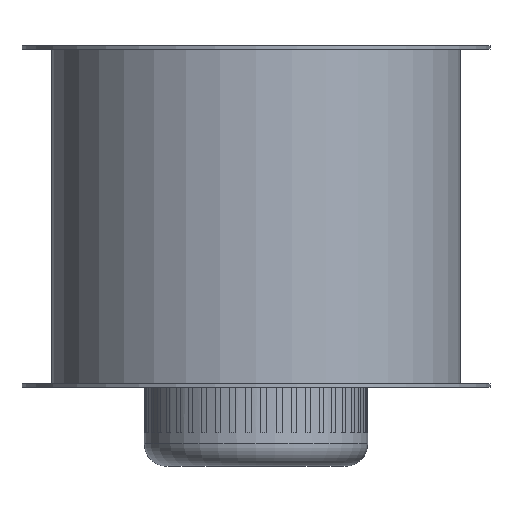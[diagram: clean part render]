
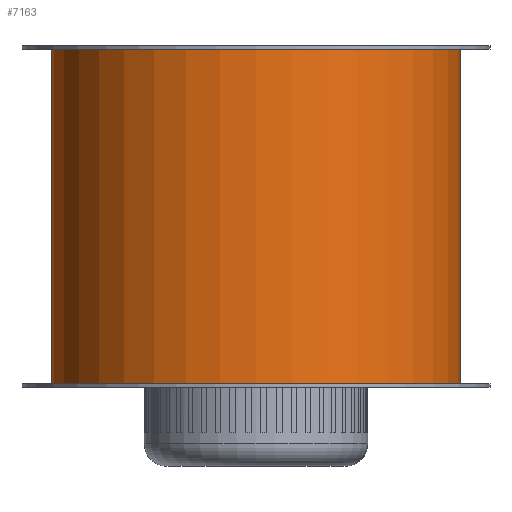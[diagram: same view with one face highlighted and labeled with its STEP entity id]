
A CAD part, front view. The second image highlights one B-rep face of the part: STEP entity #7163.
In plain terms, the highlighted cylindrical face has radius 181.5 mm (diameter 363 mm), a full revolution.
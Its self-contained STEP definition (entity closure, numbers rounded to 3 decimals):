
#405=FACE_BOUND('',#1285,.T.);
#406=FACE_BOUND('',#1286,.T.);
#804=FACE_OUTER_BOUND('',#1284,.T.);
#1284=EDGE_LOOP('',(#6530,#6531,#6532,#6533));
#1285=EDGE_LOOP('',(#6534,#6535));
#1286=EDGE_LOOP('',(#6536,#6537,#6538,#6539));
#1342=B_SPLINE_CURVE_WITH_KNOTS('',3,(#11386,#11387,#11388,#11389,#11390,
#11391,#11392,#11393,#11394,#11395),.UNSPECIFIED.,.F.,.F.,(4,2,2,2,4),(0.,
0.28,0.56,0.896,1.233),
 .UNSPECIFIED.);
#1343=B_SPLINE_CURVE_WITH_KNOTS('',3,(#11396,#11397,#11398,#11399,#11400,
#11401,#11402,#11403,#11404,#11405,#11406,#11407,#11408,#11409,#11410,#11411,
#11412,#11413,#11414,#11415,#11416,#11417,#11418,#11419,#11420,#11421),
 .UNSPECIFIED.,.F.,.F.,(4,2,2,2,2,2,2,2,2,2,2,2,4),(1.233,1.578,
1.924,2.205,2.486,2.767,3.048,
3.393,3.738,4.075,4.412,4.691,
4.971),.UNSPECIFIED.);
#1692=CIRCLE('',#7669,181.5);
#1693=CIRCLE('',#7671,181.5);
#1790=CIRCLE('',#7848,181.5);
#1793=CIRCLE('',#7853,181.5);
#2213=LINE('',#11486,#2737);
#2221=LINE('',#11501,#2745);
#2317=LINE('',#13632,#2841);
#2737=VECTOR('',#9240,10.);
#2745=VECTOR('',#9252,10.);
#2841=VECTOR('',#9724,181.5);
#3308=VERTEX_POINT('',#11384);
#3309=VERTEX_POINT('',#11385);
#3317=VERTEX_POINT('',#11482);
#3319=VERTEX_POINT('',#11485);
#3323=VERTEX_POINT('',#11497);
#3324=VERTEX_POINT('',#11499);
#3483=VERTEX_POINT('',#13619);
#3486=VERTEX_POINT('',#13628);
#4163=EDGE_CURVE('',#3308,#3309,#1342,.T.);
#4164=EDGE_CURVE('',#3309,#3308,#1343,.T.);
#4179=EDGE_CURVE('',#3319,#3317,#2213,.T.);
#4187=EDGE_CURVE('',#3323,#3324,#2221,.T.);
#4188=EDGE_CURVE('',#3317,#3323,#1692,.T.);
#4189=EDGE_CURVE('',#3324,#3319,#1693,.T.);
#4502=EDGE_CURVE('',#3483,#3483,#1790,.T.);
#4506=EDGE_CURVE('',#3486,#3486,#1793,.T.);
#4507=EDGE_CURVE('',#3486,#3483,#2317,.T.);
#6530=ORIENTED_EDGE('',*,*,#4506,.T.);
#6531=ORIENTED_EDGE('',*,*,#4507,.T.);
#6532=ORIENTED_EDGE('',*,*,#4502,.T.);
#6533=ORIENTED_EDGE('',*,*,#4507,.F.);
#6534=ORIENTED_EDGE('',*,*,#4163,.T.);
#6535=ORIENTED_EDGE('',*,*,#4164,.T.);
#6536=ORIENTED_EDGE('',*,*,#4187,.T.);
#6537=ORIENTED_EDGE('',*,*,#4189,.T.);
#6538=ORIENTED_EDGE('',*,*,#4179,.T.);
#6539=ORIENTED_EDGE('',*,*,#4188,.T.);
#6639=CYLINDRICAL_SURFACE('',#7855,181.5);
#7163=ADVANCED_FACE('',(#804,#405,#406),#6639,.T.);
#7669=AXIS2_PLACEMENT_3D('',#11503,#9255,#9256);
#7671=AXIS2_PLACEMENT_3D('',#11505,#9259,#9260);
#7848=AXIS2_PLACEMENT_3D('',#13620,#9707,#9708);
#7853=AXIS2_PLACEMENT_3D('',#13629,#9718,#9719);
#7855=AXIS2_PLACEMENT_3D('',#13631,#9722,#9723);
#9240=DIRECTION('',(0.,0.,-1.));
#9252=DIRECTION('',(0.,0.,1.));
#9255=DIRECTION('center_axis',(0.,0.,-1.));
#9256=DIRECTION('ref_axis',(-1.,0.,0.));
#9259=DIRECTION('center_axis',(0.,0.,1.));
#9260=DIRECTION('ref_axis',(-1.,0.,0.));
#9707=DIRECTION('center_axis',(0.,0.,1.));
#9708=DIRECTION('ref_axis',(-1.,0.,0.));
#9718=DIRECTION('center_axis',(0.,0.,-1.));
#9719=DIRECTION('ref_axis',(-1.,0.,0.));
#9722=DIRECTION('center_axis',(0.,0.,1.));
#9723=DIRECTION('ref_axis',(-1.,0.,0.));
#9724=DIRECTION('',(0.,0.,-1.));
#11384=CARTESIAN_POINT('',(-91.667,156.651,-89.));
#11385=CARTESIAN_POINT('',(-99.167,152.014,-81.5));
#11386=CARTESIAN_POINT('Ctrl Pts',(-91.667,156.651,-89.));
#11387=CARTESIAN_POINT('Ctrl Pts',(-91.667,156.651,-88.067));
#11388=CARTESIAN_POINT('Ctrl Pts',(-91.852,156.543,-87.084));
#11389=CARTESIAN_POINT('Ctrl Pts',(-92.573,156.117,-85.298));
#11390=CARTESIAN_POINT('Ctrl Pts',(-93.108,155.8,-84.496));
#11391=CARTESIAN_POINT('Ctrl Pts',(-94.408,155.016,-83.111));
#11392=CARTESIAN_POINT('Ctrl Pts',(-95.298,154.473,-82.492));
#11393=CARTESIAN_POINT('Ctrl Pts',(-97.208,153.278,-81.687));
#11394=CARTESIAN_POINT('Ctrl Pts',(-98.227,152.627,-81.5));
#11395=CARTESIAN_POINT('Ctrl Pts',(-99.167,152.014,-81.5));
#11396=CARTESIAN_POINT('Ctrl Pts',(-99.167,152.014,-81.5));
#11397=CARTESIAN_POINT('Ctrl Pts',(-100.131,151.385,-81.5));
#11398=CARTESIAN_POINT('Ctrl Pts',(-101.162,150.698,-81.696));
#11399=CARTESIAN_POINT('Ctrl Pts',(-103.077,149.394,-82.516));
#11400=CARTESIAN_POINT('Ctrl Pts',(-103.962,148.778,-83.14));
#11401=CARTESIAN_POINT('Ctrl Pts',(-105.241,147.875,-84.521));
#11402=CARTESIAN_POINT('Ctrl Pts',(-105.767,147.499,-85.312));
#11403=CARTESIAN_POINT('Ctrl Pts',(-106.48,146.985,-87.082));
#11404=CARTESIAN_POINT('Ctrl Pts',(-106.667,146.848,-88.063));
#11405=CARTESIAN_POINT('Ctrl Pts',(-106.667,146.848,-89.937));
#11406=CARTESIAN_POINT('Ctrl Pts',(-106.48,146.985,-90.918));
#11407=CARTESIAN_POINT('Ctrl Pts',(-105.767,147.499,-92.688));
#11408=CARTESIAN_POINT('Ctrl Pts',(-105.241,147.875,-93.479));
#11409=CARTESIAN_POINT('Ctrl Pts',(-103.962,148.778,-94.86));
#11410=CARTESIAN_POINT('Ctrl Pts',(-103.077,149.394,-95.484));
#11411=CARTESIAN_POINT('Ctrl Pts',(-101.162,150.698,-96.304));
#11412=CARTESIAN_POINT('Ctrl Pts',(-100.131,151.385,-96.5));
#11413=CARTESIAN_POINT('Ctrl Pts',(-98.227,152.627,-96.5));
#11414=CARTESIAN_POINT('Ctrl Pts',(-97.208,153.278,-96.313));
#11415=CARTESIAN_POINT('Ctrl Pts',(-95.298,154.473,-95.508));
#11416=CARTESIAN_POINT('Ctrl Pts',(-94.408,155.016,-94.889));
#11417=CARTESIAN_POINT('Ctrl Pts',(-93.108,155.8,-93.504));
#11418=CARTESIAN_POINT('Ctrl Pts',(-92.573,156.117,-92.702));
#11419=CARTESIAN_POINT('Ctrl Pts',(-91.852,156.543,-90.916));
#11420=CARTESIAN_POINT('Ctrl Pts',(-91.667,156.651,-89.933));
#11421=CARTESIAN_POINT('Ctrl Pts',(-91.667,156.651,-89.));
#11482=CARTESIAN_POINT('',(-66.111,169.031,-139.5));
#11485=CARTESIAN_POINT('',(-66.111,169.031,-38.5));
#11486=CARTESIAN_POINT('',(-66.111,169.031,0.));
#11497=CARTESIAN_POINT('',(66.111,169.031,-139.5));
#11499=CARTESIAN_POINT('',(66.111,169.031,-38.5));
#11501=CARTESIAN_POINT('',(66.111,169.031,0.));
#11503=CARTESIAN_POINT('Origin',(0.,0.,-139.5));
#11505=CARTESIAN_POINT('Origin',(0.,0.,-38.5));
#13619=CARTESIAN_POINT('',(181.5,0.,-148.5));
#13620=CARTESIAN_POINT('Origin',(0.,0.,-148.5));
#13628=CARTESIAN_POINT('',(181.5,0.,148.5));
#13629=CARTESIAN_POINT('Origin',(0.,0.,148.5));
#13631=CARTESIAN_POINT('Origin',(0.,0.,0.));
#13632=CARTESIAN_POINT('',(181.5,0.,0.));
